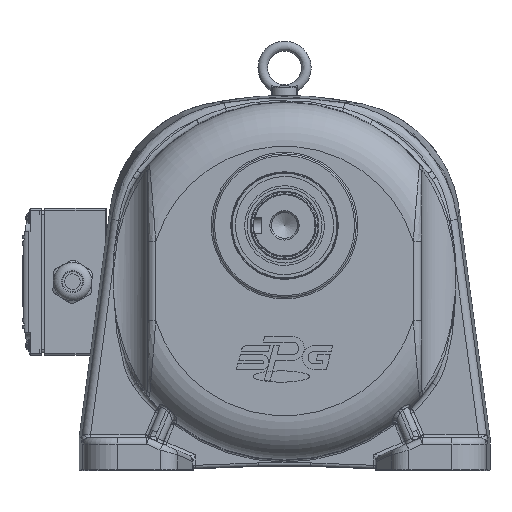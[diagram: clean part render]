
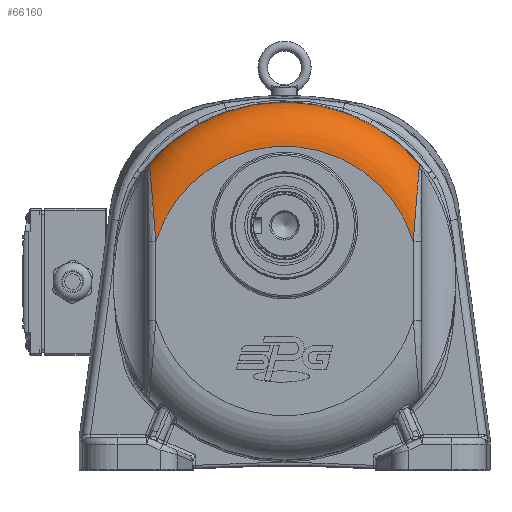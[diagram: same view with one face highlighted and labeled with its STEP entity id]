
A CAD part, top view. The second image highlights one B-rep face of the part: STEP entity #66160.
In plain terms, the highlighted toroidal (fillet/blend) face has major radius 82.678 mm and minor radius 27 mm.
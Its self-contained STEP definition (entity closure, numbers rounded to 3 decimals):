
#980=TOROIDAL_SURFACE('',#72037,82.678,27.);
#11794=FACE_OUTER_BOUND('',#15937,.T.);
#15937=EDGE_LOOP('',(#48757,#48758,#48759,#48760,#48761,#48762));
#19555=CIRCLE('',#70676,109.669);
#20227=CIRCLE('',#72014,82.678);
#22427=B_SPLINE_CURVE_WITH_KNOTS('',3,(#101635,#101636,#101637,#101638,
#101639),.UNSPECIFIED.,.F.,.F.,(4,1,4),(-0.783,-0.335,
0.),.UNSPECIFIED.);
#22435=B_SPLINE_CURVE_WITH_KNOTS('',3,(#101849,#101850,#101851,#101852,
#101853),.UNSPECIFIED.,.F.,.F.,(4,1,4),(-0.783,-0.447,
0.),.UNSPECIFIED.);
#22687=B_SPLINE_CURVE_WITH_KNOTS('',3,(#113240,#113241,#113242,#113243,
#113244,#113245,#113246,#113247,#113248),.UNSPECIFIED.,.F.,.F.,(4,1,1,1,
1,1,4),(-14.071,-13.415,-12.758,-12.43,
-12.101,-10.788,-9.474),.UNSPECIFIED.);
#22688=B_SPLINE_CURVE_WITH_KNOTS('',3,(#113249,#113250,#113251,#113252,
#113253,#113254,#113255,#113256,#113257),.UNSPECIFIED.,.F.,.F.,(4,1,1,1,
1,1,4),(-4.597,-3.284,-1.97,-1.642,
-1.313,-0.657,0.),.UNSPECIFIED.);
#26474=VERTEX_POINT('',#101631);
#26476=VERTEX_POINT('',#101634);
#26486=VERTEX_POINT('',#101845);
#26488=VERTEX_POINT('',#101848);
#27476=VERTEX_POINT('',#113132);
#27477=VERTEX_POINT('',#113134);
#33289=EDGE_CURVE('',#26474,#26476,#22427,.T.);
#33303=EDGE_CURVE('',#26486,#26488,#22435,.T.);
#33353=EDGE_CURVE('',#26486,#26476,#19555,.T.);
#34987=EDGE_CURVE('',#27477,#27476,#20227,.T.);
#35041=EDGE_CURVE('',#26488,#27476,#22687,.T.);
#35042=EDGE_CURVE('',#27477,#26474,#22688,.T.);
#48757=ORIENTED_EDGE('',*,*,#34987,.T.);
#48758=ORIENTED_EDGE('',*,*,#35041,.F.);
#48759=ORIENTED_EDGE('',*,*,#33303,.F.);
#48760=ORIENTED_EDGE('',*,*,#33353,.T.);
#48761=ORIENTED_EDGE('',*,*,#33289,.F.);
#48762=ORIENTED_EDGE('',*,*,#35042,.F.);
#66160=ADVANCED_FACE('',(#11794),#980,.T.);
#70676=AXIS2_PLACEMENT_3D('',#102095,#81272,#81273);
#72014=AXIS2_PLACEMENT_3D('',#113135,#84498,#84499);
#72037=AXIS2_PLACEMENT_3D('',#113239,#84575,#84576);
#81272=DIRECTION('center_axis',(0.,0.,1.));
#81273=DIRECTION('ref_axis',(-1.,0.,0.));
#84498=DIRECTION('center_axis',(0.,0.,-1.));
#84499=DIRECTION('ref_axis',(-1.,0.,0.));
#84575=DIRECTION('center_axis',(0.,0.,-1.));
#84576=DIRECTION('ref_axis',(-1.,0.,0.));
#101631=CARTESIAN_POINT('',(-79.676,69.434,71.818));
#101634=CARTESIAN_POINT('',(-81.021,70.692,62.686));
#101635=CARTESIAN_POINT('Ctrl Pts',(-79.676,69.434,
71.818));
#101636=CARTESIAN_POINT('Ctrl Pts',(-79.745,70.301,
70.254));
#101637=CARTESIAN_POINT('Ctrl Pts',(-80.033,71.351,
67.114));
#101638=CARTESIAN_POINT('Ctrl Pts',(-80.697,71.028,63.945));
#101639=CARTESIAN_POINT('Ctrl Pts',(-81.021,70.692,62.686));
#101845=CARTESIAN_POINT('',(86.803,70.692,62.686));
#101848=CARTESIAN_POINT('',(85.457,69.434,71.818));
#101849=CARTESIAN_POINT('Ctrl Pts',(86.803,70.692,62.686));
#101850=CARTESIAN_POINT('Ctrl Pts',(86.478,71.028,63.945));
#101851=CARTESIAN_POINT('Ctrl Pts',(85.809,71.346,67.149));
#101852=CARTESIAN_POINT('Ctrl Pts',(85.527,70.301,70.254));
#101853=CARTESIAN_POINT('Ctrl Pts',(85.457,69.434,71.818));
#102095=CARTESIAN_POINT('Origin',(2.891,0.08,62.686));
#113132=CARTESIAN_POINT('',(81.891,24.465,89.));
#113134=CARTESIAN_POINT('',(-76.109,24.465,89.));
#113135=CARTESIAN_POINT('Origin',(2.891,0.08,89.));
#113239=CARTESIAN_POINT('Origin',(2.891,0.08,62.));
#113240=CARTESIAN_POINT('Ctrl Pts',(85.457,69.434,71.818));
#113241=CARTESIAN_POINT('Ctrl Pts',(85.355,68.161,74.115));
#113242=CARTESIAN_POINT('Ctrl Pts',(85.085,64.816,78.204));
#113243=CARTESIAN_POINT('Ctrl Pts',(84.661,59.673,81.832));
#113244=CARTESIAN_POINT('Ctrl Pts',(84.291,55.253,84.054));
#113245=CARTESIAN_POINT('Ctrl Pts',(83.726,48.507,86.724));
#113246=CARTESIAN_POINT('Ctrl Pts',(82.842,37.972,88.739));
#113247=CARTESIAN_POINT('Ctrl Pts',(82.171,28.932,89.));
#113248=CARTESIAN_POINT('Ctrl Pts',(81.891,24.465,89.));
#113249=CARTESIAN_POINT('Ctrl Pts',(-76.109,24.465,
89.));
#113250=CARTESIAN_POINT('Ctrl Pts',(-76.39,28.932,
89.));
#113251=CARTESIAN_POINT('Ctrl Pts',(-77.061,37.972,
88.739));
#113252=CARTESIAN_POINT('Ctrl Pts',(-77.944,48.507,
86.724));
#113253=CARTESIAN_POINT('Ctrl Pts',(-78.51,55.253,
84.054));
#113254=CARTESIAN_POINT('Ctrl Pts',(-78.879,59.673,
81.832));
#113255=CARTESIAN_POINT('Ctrl Pts',(-79.304,64.816,78.204));
#113256=CARTESIAN_POINT('Ctrl Pts',(-79.574,68.161,
74.115));
#113257=CARTESIAN_POINT('Ctrl Pts',(-79.676,69.434,
71.818));
